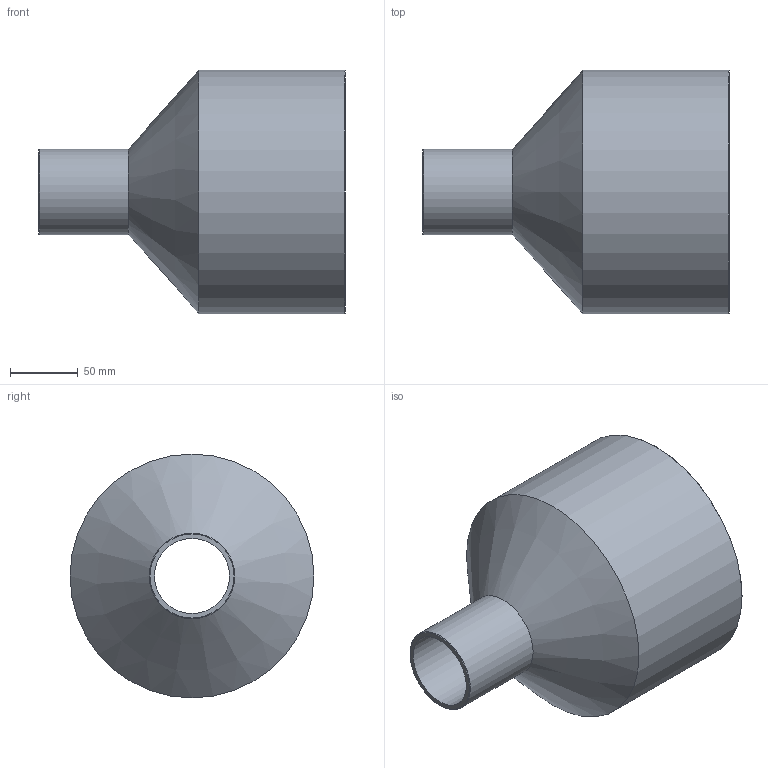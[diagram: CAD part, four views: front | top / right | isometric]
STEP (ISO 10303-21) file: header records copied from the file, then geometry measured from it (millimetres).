
FILE_DESCRIPTION(/* description */ ('Unknown'),/* implementation_level */ '2;1');
FILE_NAME(/* name */ 'RP180063B',/* time_stamp */ '2021-09-17T11:07:13+02:00',/* author */ ('Unknown'),/* organization */ ('Unknown'),/* preprocessor_version */ 'ST-DEVELOPER v16.7',/* originating_system */ 'Solid Edge',/* authorisation */ 'Unknown');
FILE_SCHEMA (('AUTOMOTIVE_DESIGN {1 0 10303 214 3 1 1}'));
Length unit declared in the file: millimetre
Products named in the file (1): RP180063B
Bounding box: 226 x 180 x 180 mm (x, y, z)
Volume: 973012.7 mm3; surface area: 196932.4 mm2
Topology: 1 solids, 1 shells, 10 faces, 19 edges, 11 vertices
Faces by surface type: cylinder 4, cone 4, plane 2
Full cylindrical faces by diameter (mm): 55.4 x1, 63 x1, 158.6 x1, 180 x1
Entity records: 238 total; most frequent: DIRECTION 42, CARTESIAN_POINT 31, AXIS2_PLACEMENT_3D 21, ORIENTED_EDGE 20, EDGE_LOOP 20, FACE_BOUND 20, EDGE_CURVE 10, VERTEX_POINT 10
